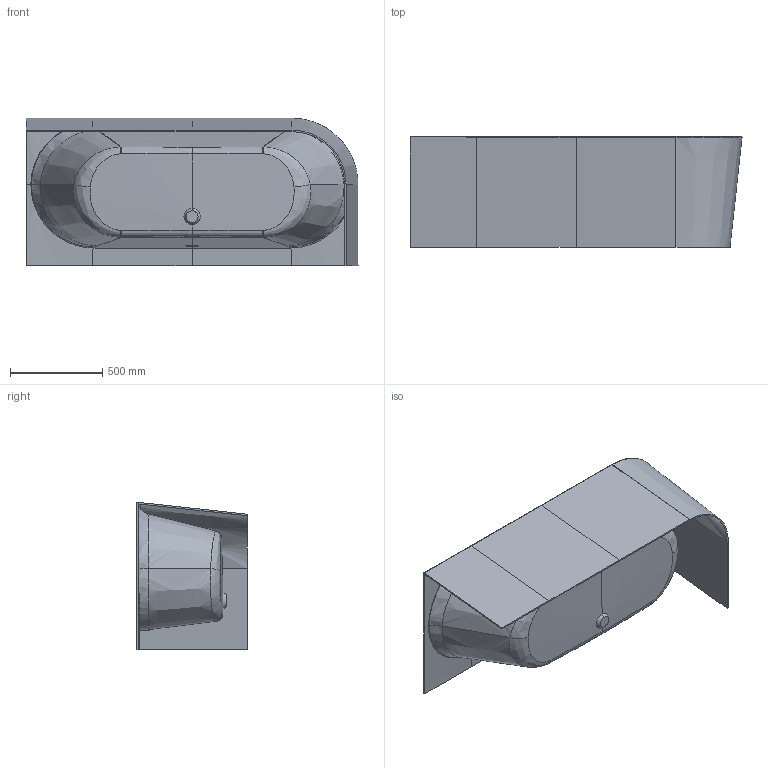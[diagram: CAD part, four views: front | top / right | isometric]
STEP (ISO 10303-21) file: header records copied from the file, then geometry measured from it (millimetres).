
FILE_DESCRIPTION((''),'2;1');
FILE_NAME('OBERON_BTW_L_RIM30_26102022_ASM','2022-09-26T09:21:13',('GrootJ'),('Villeroy & Boch Wellness bv'),'CREO PARAMETRIC BY PTC INC, 2020454','CREO PARAMETRIC BY PTC INC, 2020454','');
FILE_SCHEMA(('CONFIG_CONTROL_DESIGN'));
Products named in the file (5): OBERON20_BTW-C-L_RIM30_26102022; OVERL_OB20_ZICHTDEEL8GR_040722; V3P1607-022; AFVOERDEKSEL06122017; OBERON_BTW_L_RIM30_26102022_ASM
Assembly tree (4 placements, depth 2):
  OBERON_BTW_L_RIM30_26102022_ASM
    OBERON20_BTW-C-L_RIM30_26102022
    OVERL_OB20_ZICHTDEEL8GR_040722
    V3P1607-022
    AFVOERDEKSEL06122017
Bounding box: 1800.56 x 600 x 799.98 mm (x, y, z)
Volume: 31875767.4 mm3; surface area: 8019185 mm2
Topology: 4 solids, 4 shells, 820 faces, 2066 edges, 1290 vertices
Faces by surface type: bspline 281, extrusion 240, plane 146, cylinder 100, torus 32, cone 21
Entity records: 44290 total; most frequent: CARTESIAN_POINT 27674, ORIENTED_EDGE 4132, EDGE_CURVE 2066, DIRECTION 2037, B_SPLINE_CURVE_WITH_KNOTS 1371, VERTEX_POINT 1290, VECTOR 929, EDGE_LOOP 858
